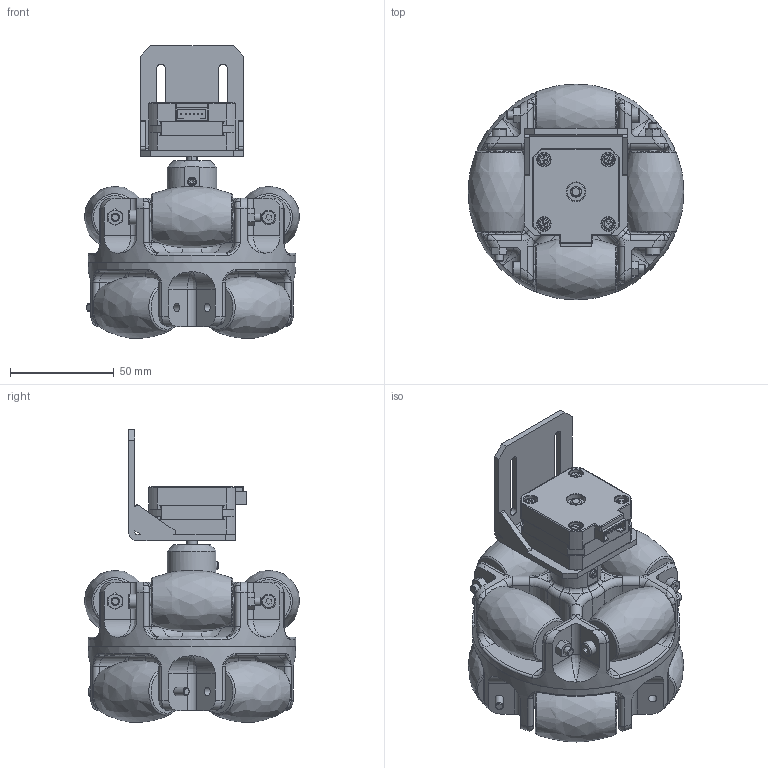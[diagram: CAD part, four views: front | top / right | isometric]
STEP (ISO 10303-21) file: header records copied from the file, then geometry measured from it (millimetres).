
FILE_DESCRIPTION(/* description */ (''),/* implementation_level */ '2;1');
FILE_NAME(/* name */ 'Assieme2.stp',/* time_stamp */ '2025-05-19T21:28:04+02:00',/* author */ ('R5800u'),/* organization */ (''),/* preprocessor_version */ 'ST-DEVELOPER v20',/* originating_system */ 'Autodesk Inventor 2025',/* authorisation */ '');
FILE_SCHEMA (('AUTOMOTIVE_DESIGN { 1 0 10303 214 3 1 1 }'));
Length unit declared in the file: millimetre
Products named in the file (18): Assieme2; Assieme1b; Parte1; Assieme1; Parte1b; vite2; ruota; ANSI B18.2.4.2M - M4x0,7; AS 1421 - M4 x 12 Punta a coppa; nema17_pancake; back_plate; front_plate; stator; 625ZZ; rotor; connector; M3_screw; Body
Assembly tree (36 placements, depth 3):
  Assieme2
    Assieme1b
      Parte1
    Assieme1
      Parte1b
    ANSI B18.2.4.2M - M4x0,7  x5
    vite2  x5
    ruota  x8
    AS 1421 - M4 x 12 Punta a coppa
    nema17_pancake
      back_plate
      front_plate
      stator
      625ZZ  x2
      rotor
      connector
      M3_screw  x4
    Body
Bounding box: 103.84 x 103.84 x 141.06 mm (x, y, z)
Volume: 428976.2 mm3; surface area: 138636.1 mm2
Topology: 33 solids, 33 shells, 1064 faces, 2493 edges, 1479 vertices
Faces by surface type: plane 431, cylinder 284, torus 142, bspline 106, cone 101
Full cylindrical faces by diameter (mm): 3 x16, 3.242 x5, 3.5 x4, 4 x22, 4.3 x2, 5 x13, 5.2 x4, 6.5 x4, 7 x7, 9 x5, 10 x1, 12.3 x4, 16 x4, 22 x3, 22.15 x1, 24 x1, 30 x1, 31 x2, 100 x2
Entity records: 27327 total; most frequent: CARTESIAN_POINT 8325, DIRECTION 3911, ORIENTED_EDGE 3654, EDGE_CURVE 1827, AXIS2_PLACEMENT_3D 1540, VERTEX_POINT 1097, EDGE_LOOP 904, LINE 831
